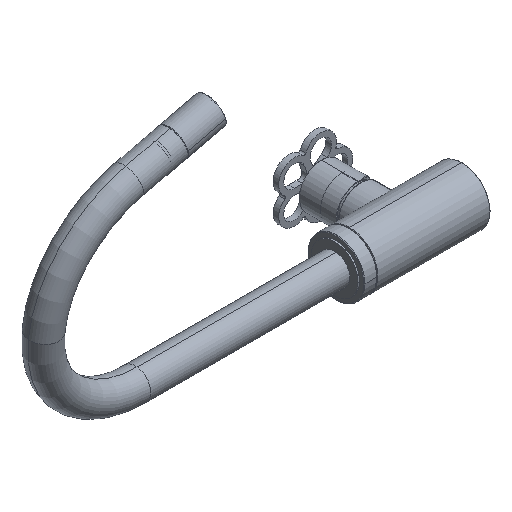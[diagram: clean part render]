
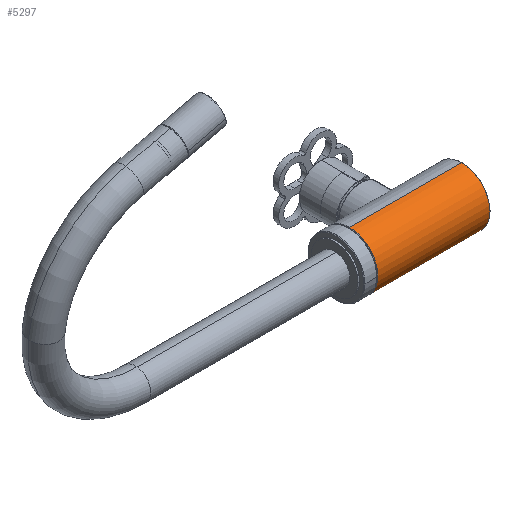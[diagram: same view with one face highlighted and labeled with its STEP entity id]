
A CAD part, isometric view. The second image highlights one B-rep face of the part: STEP entity #5297.
In plain terms, the highlighted cylindrical face has radius 25 mm (diameter 50 mm), a partial arc.
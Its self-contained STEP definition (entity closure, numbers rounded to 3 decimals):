
#2018=DIRECTION('',(-1.,0.,0.));
#2019=VECTOR('',#2018,99.15);
#2020=CARTESIAN_POINT('',(140.188,15.555,4.9));
#2021=LINE('',#2020,#2019);
#2443=CARTESIAN_POINT('',(41.038,15.555,29.9));
#2444=DIRECTION('',(-1.,0.,0.));
#2445=DIRECTION('',(0.,0.,-1.));
#2446=AXIS2_PLACEMENT_3D('',#2443,#2444,#2445);
#2448=DIRECTION('',(-1.,0.,0.));
#2449=VECTOR('',#2448,99.15);
#2450=CARTESIAN_POINT('',(140.188,15.555,54.9));
#2451=LINE('',#2450,#2449);
#2456=CARTESIAN_POINT('',(140.188,15.555,29.9));
#2457=DIRECTION('',(1.,0.,0.));
#2458=DIRECTION('',(0.,0.,1.));
#2459=AXIS2_PLACEMENT_3D('',#2456,#2457,#2458);
#3012=CARTESIAN_POINT('',(140.188,15.555,54.9));
#3014=VERTEX_POINT('',#3012);
#3022=CARTESIAN_POINT('',(41.038,15.555,54.9));
#3023=CARTESIAN_POINT('',(41.038,15.555,4.9));
#3024=VERTEX_POINT('',#3022);
#3025=VERTEX_POINT('',#3023);
#3026=CARTESIAN_POINT('',(140.188,15.555,4.9));
#3027=VERTEX_POINT('',#3026);
#5285=CARTESIAN_POINT('',(140.688,15.555,29.9));
#5286=DIRECTION('',(1.,0.,0.));
#5287=DIRECTION('',(0.,0.,-1.));
#5288=AXIS2_PLACEMENT_3D('',#5285,#5286,#5287);
#5289=CYLINDRICAL_SURFACE('',#5288,25.);
#5290=ORIENTED_EDGE('',*,*,#5205,.F.);
#5292=ORIENTED_EDGE('',*,*,#5291,.T.);
#5293=ORIENTED_EDGE('',*,*,#5201,.T.);
#5294=ORIENTED_EDGE('',*,*,#5271,.T.);
#5295=EDGE_LOOP('',(#5290,#5292,#5293,#5294));
#5296=FACE_OUTER_BOUND('',#5295,.F.);
#2447=CIRCLE('',#2446,25.);
#2460=CIRCLE('',#2459,25.);
#5201=EDGE_CURVE('',#3027,#3025,#2021,.T.);
#5205=EDGE_CURVE('',#3014,#3024,#2451,.T.);
#5271=EDGE_CURVE('',#3025,#3024,#2447,.T.);
#5291=EDGE_CURVE('',#3014,#3027,#2460,.T.);
#5297=ADVANCED_FACE('',(#5296),#5289,.T.);
